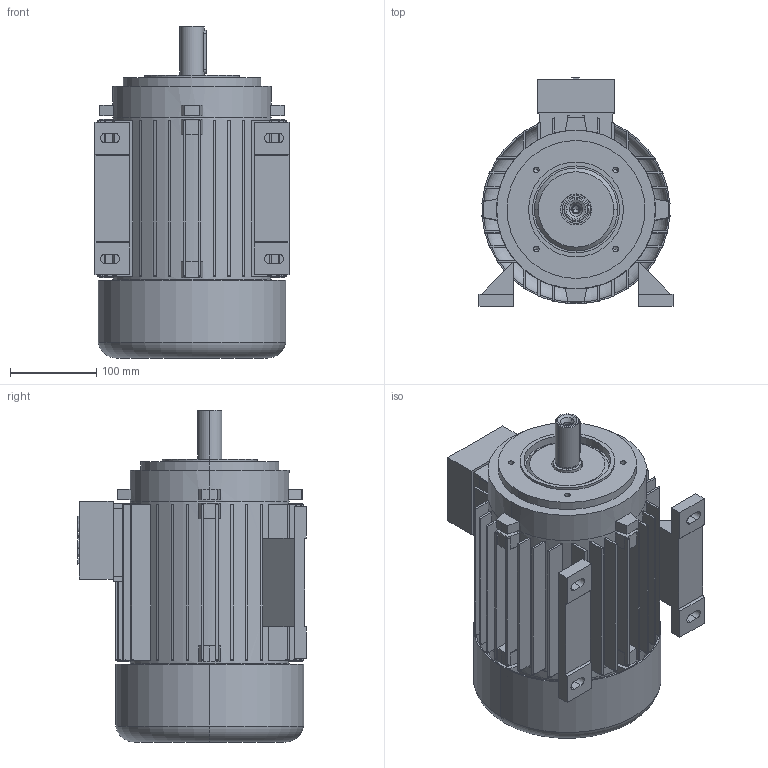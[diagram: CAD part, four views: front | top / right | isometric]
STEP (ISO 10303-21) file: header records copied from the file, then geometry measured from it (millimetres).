
FILE_DESCRIPTION (( 'STEP AP214' ), '1' );
FILE_NAME ('20.18274-F 5AZ 112 B34 small STANDK.STEP', '2018-07-17T05:08:15', ( '' ), ( '' ), 'SwSTEP 2.0', 'SolidWorks 2018', '' );
FILE_SCHEMA (( 'AUTOMOTIVE_DESIGN' ));
Length unit declared in the file: millimetre
Products named in the file (1): 20.18274-F 5AZ 112 B34 small STANDK
Bounding box: 225 x 265 x 385 mm (x, y, z)
Volume: 4404944.3 mm3; surface area: 1383672.9 mm2
Topology: 8 solids, 8 shells, 880 faces, 2350 edges, 1553 vertices
Faces by surface type: plane 598, cylinder 243, cone 26, bspline 9, torus 4
Entity records: 32812 total; most frequent: CARTESIAN_POINT 4983, DIRECTION 4800, ORIENTED_EDGE 4680, EDGE_CURVE 2340, AXIS2_PLACEMENT_3D 1618, LINE 1564, VECTOR 1564, VERTEX_POINT 1553
